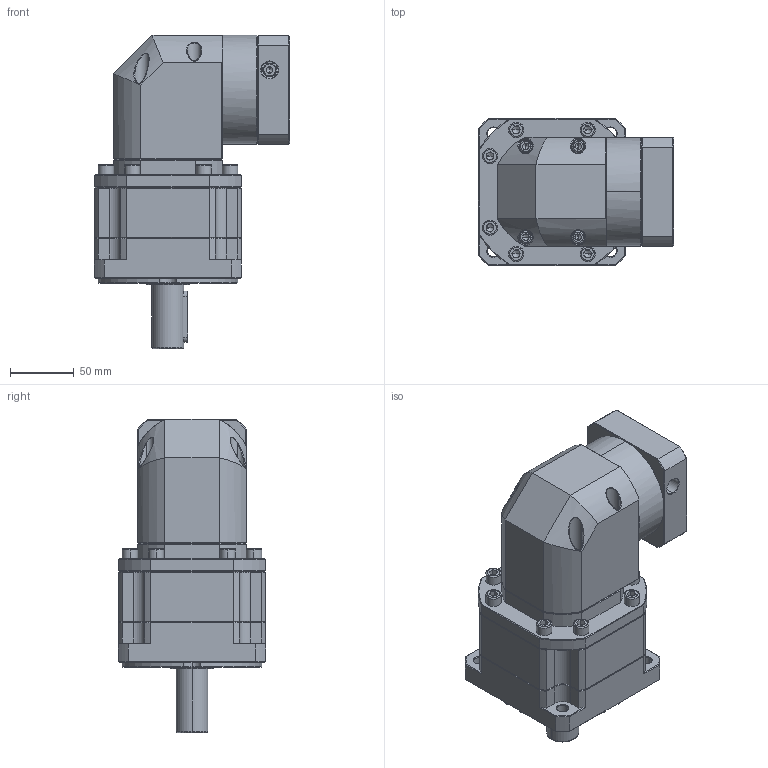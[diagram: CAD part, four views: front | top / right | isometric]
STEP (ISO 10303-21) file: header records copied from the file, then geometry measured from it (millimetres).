
FILE_DESCRIPTION (( 'STEP AP214' ), '1' );
FILE_NAME ('ZBR115A-D25-L2-P2-14-73-69.6X69.6-M6.step', '2023-08-26T13:32:17', ( '' ), ( '' ), 'SwSTEP 2.0', 'SolidWorks 2016', '' );
FILE_SCHEMA (( 'AUTOMOTIVE_DESIGN' ));
Length unit declared in the file: millimetre
Products named in the file (1): ZBR115A-D25-L2-P2-14-73-69.6X69.6-M6
Bounding box: 152.6 x 115 x 245 mm (x, y, z)
Volume: 1936532 mm3; surface area: 176534.5 mm2
Topology: 6 solids, 6 shells, 2593 faces, 6702 edges, 4218 vertices
Faces by surface type: plane 1281, cylinder 476, bspline 451, cone 371, torus 14
Entity records: 136817 total; most frequent: CARTESIAN_POINT 48960, ORIENTED_EDGE 13296, DIRECTION 10667, EDGE_CURVE 6648, VECTOR 4279, LINE 4279, VERTEX_POINT 4218, AXIS2_PLACEMENT_3D 3194
